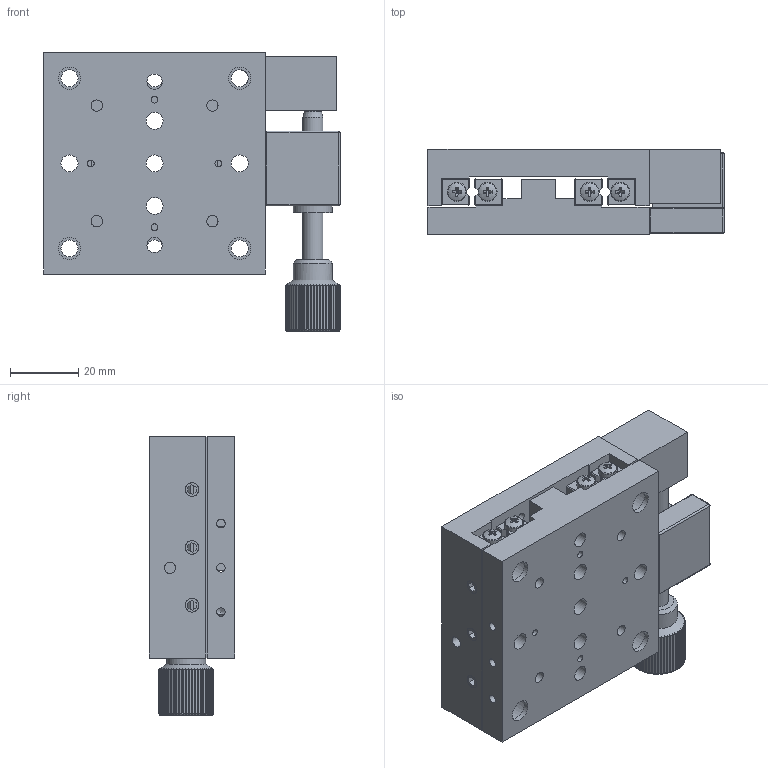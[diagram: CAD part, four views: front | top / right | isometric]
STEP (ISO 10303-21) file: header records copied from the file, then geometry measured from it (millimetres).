
FILE_DESCRIPTION (( 'STEP AP203' ), '1' );
FILE_NAME ('TSS65X-1A.step', '2017-01-10T09:22:02', ( '¦K¬P' ), ( '' ), 'SwSTEP 2.0', 'SolidWorks 2012', '' );
FILE_SCHEMA (( 'CONFIG_CONTROL_DESIGN' ));
Length unit declared in the file: millimetre
Products named in the file (1): TSS65X-1A
Bounding box: 87 x 25 x 81.8 mm (x, y, z)
Surface area: 40273.3 mm2 (no closed solid volume)
Topology: 0 solids, 33 shells, 589 faces, 1657 edges, 1097 vertices
Faces by surface type: plane 409, cylinder 147, sphere 15, cone 9, torus 9
Full cylindrical faces by diameter (mm): 1.7 x2, 2 x8, 2.5 x11, 3 x1, 3.3 x9, 4.5 x2, 5 x19, 5.4 x1, 5.6 x8, 6 x6, 6.5 x4, 8 x1, 10 x1, 11 x4, 11.4 x1, 11.5 x1
Entity records: 19070 total; most frequent: CARTESIAN_POINT 4354, DIRECTION 2928, ORIENTED_EDGE 2786, EDGE_CURVE 1534, VERTEX_POINT 1080, AXIS2_PLACEMENT_3D 1036, VECTOR 856, LINE 856
